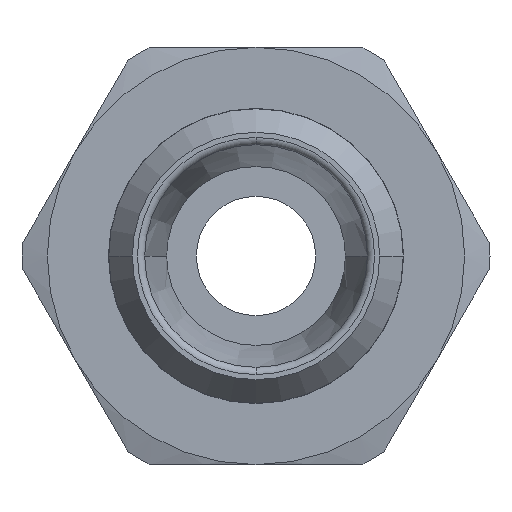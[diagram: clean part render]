
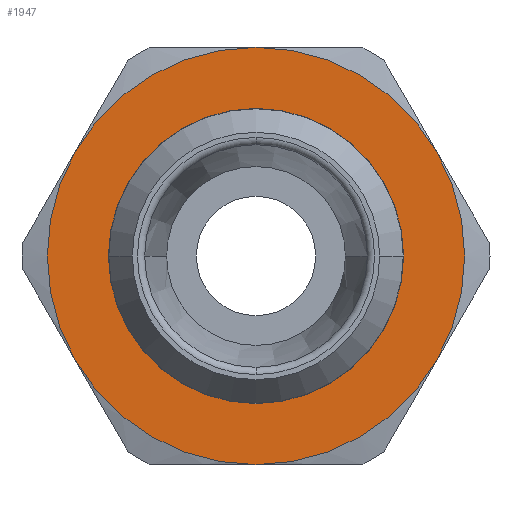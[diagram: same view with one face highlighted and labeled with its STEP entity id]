
A CAD part, left-side view. The second image highlights one B-rep face of the part: STEP entity #1947.
In plain terms, the highlighted planar face has unit normal (-1, 0, 0) as drawn and (0, 0, 1) by its records, which use the part's own axes.
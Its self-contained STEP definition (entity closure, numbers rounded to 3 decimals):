
#857=CARTESIAN_POINT('',(-4.95,0.,2.0));
#858=VERTEX_POINT('',#857);
#884=CARTESIAN_POINT('',(4.95,0.,2.0));
#885=VERTEX_POINT('',#884);
#893=CARTESIAN_POINT('',(0.,0.,2.0));
#894=DIRECTION('',(0.0,0.0,1.0));
#895=DIRECTION('',(-1.0,0.0,0.0));
#896=AXIS2_PLACEMENT_3D('',#893,#894,#895);
#897=CIRCLE('',#896,4.95);
#898=EDGE_CURVE('',#885,#858,#897,.T.);
#1827=CARTESIAN_POINT('',(0.,-4.95,2.));
#1828=VERTEX_POINT('',#1827);
#1829=CARTESIAN_POINT('',(0.,0.,2.0));
#1830=DIRECTION('',(0.0,0.0,1.0));
#1831=DIRECTION('',(-1.0,0.0,0.0));
#1832=AXIS2_PLACEMENT_3D('',#1829,#1830,#1831);
#1833=CIRCLE('',#1832,4.95);
#1834=EDGE_CURVE('',#858,#1828,#1833,.T.);
#1836=CARTESIAN_POINT('',(0.,0.,2.0));
#1837=DIRECTION('',(0.0,0.0,1.0));
#1838=DIRECTION('',(-1.0,0.0,0.0));
#1839=AXIS2_PLACEMENT_3D('',#1836,#1837,#1838);
#1840=CIRCLE('',#1839,4.95);
#1841=EDGE_CURVE('',#1828,#885,#1840,.T.);
#1881=CARTESIAN_POINT('',(0.0,0.,2.0));
#1882=DIRECTION('',(0.0,0.0,1.0));
#1883=DIRECTION('',(1.0,0.0,0.0));
#1884=AXIS2_PLACEMENT_3D('',#1881,#1882,#1883);
#1885=PLANE('',#1884);
#1886=CARTESIAN_POINT('',(3.5,-6.062,2.));
#1887=VERTEX_POINT('',#1886);
#1888=CARTESIAN_POINT('',(7.,0.0,2.));
#1889=VERTEX_POINT('',#1888);
#1890=CARTESIAN_POINT('',(0.,0.0,2.0));
#1891=DIRECTION('',(0.0,0.0,1.0));
#1892=DIRECTION('',(1.0,0.0,0.0));
#1893=AXIS2_PLACEMENT_3D('',#1890,#1891,#1892);
#1894=CIRCLE('',#1893,7.);
#1895=EDGE_CURVE('',#1887,#1889,#1894,.T.);
#1896=ORIENTED_EDGE('',*,*,#1895,.T.);
#1897=CARTESIAN_POINT('',(3.5,6.062,2.));
#1898=VERTEX_POINT('',#1897);
#1899=CARTESIAN_POINT('',(0.,0.0,2.0));
#1900=DIRECTION('',(0.0,0.0,1.0));
#1901=DIRECTION('',(1.0,0.0,0.0));
#1902=AXIS2_PLACEMENT_3D('',#1899,#1900,#1901);
#1903=CIRCLE('',#1902,7.);
#1904=EDGE_CURVE('',#1889,#1898,#1903,.T.);
#1905=ORIENTED_EDGE('',*,*,#1904,.T.);
#1906=CARTESIAN_POINT('',(-3.5,6.062,2.));
#1907=VERTEX_POINT('',#1906);
#1908=CARTESIAN_POINT('',(0.,0.0,2.0));
#1909=DIRECTION('',(0.0,0.0,1.0));
#1910=DIRECTION('',(1.0,0.0,0.0));
#1911=AXIS2_PLACEMENT_3D('',#1908,#1909,#1910);
#1912=CIRCLE('',#1911,7.);
#1913=EDGE_CURVE('',#1898,#1907,#1912,.T.);
#1914=ORIENTED_EDGE('',*,*,#1913,.T.);
#1915=CARTESIAN_POINT('',(-7.,0.,2.));
#1916=VERTEX_POINT('',#1915);
#1917=CARTESIAN_POINT('',(0.,0.0,2.0));
#1918=DIRECTION('',(0.0,0.0,1.0));
#1919=DIRECTION('',(1.0,0.0,0.0));
#1920=AXIS2_PLACEMENT_3D('',#1917,#1918,#1919);
#1921=CIRCLE('',#1920,7.);
#1922=EDGE_CURVE('',#1907,#1916,#1921,.T.);
#1923=ORIENTED_EDGE('',*,*,#1922,.T.);
#1924=CARTESIAN_POINT('',(-3.5,-6.062,2.));
#1925=VERTEX_POINT('',#1924);
#1926=CARTESIAN_POINT('',(0.,0.0,2.0));
#1927=DIRECTION('',(0.0,0.0,1.0));
#1928=DIRECTION('',(1.0,0.0,0.0));
#1929=AXIS2_PLACEMENT_3D('',#1926,#1927,#1928);
#1930=CIRCLE('',#1929,7.);
#1931=EDGE_CURVE('',#1916,#1925,#1930,.T.);
#1932=ORIENTED_EDGE('',*,*,#1931,.T.);
#1933=CARTESIAN_POINT('',(0.,0.0,2.0));
#1934=DIRECTION('',(0.0,0.0,1.0));
#1935=DIRECTION('',(1.0,0.0,0.0));
#1936=AXIS2_PLACEMENT_3D('',#1933,#1934,#1935);
#1937=CIRCLE('',#1936,7.);
#1938=EDGE_CURVE('',#1925,#1887,#1937,.T.);
#1939=ORIENTED_EDGE('',*,*,#1938,.T.);
#1940=EDGE_LOOP('',(#1896,#1905,#1914,#1923,#1932,#1939));
#1941=FACE_OUTER_BOUND('',#1940,.T.);
#1942=ORIENTED_EDGE('',*,*,#1841,.F.);
#1943=ORIENTED_EDGE('',*,*,#1834,.F.);
#1944=ORIENTED_EDGE('',*,*,#898,.F.);
#1945=EDGE_LOOP('',(#1942,#1943,#1944));
#1946=FACE_BOUND('',#1945,.T.);
#1947=ADVANCED_FACE('',(#1941,#1946),#1885,.T.);
